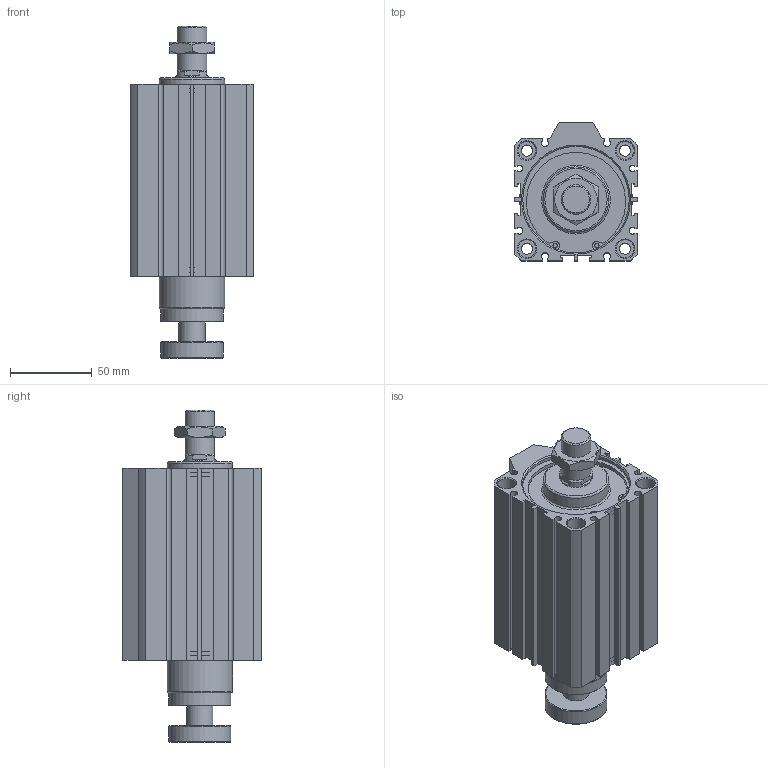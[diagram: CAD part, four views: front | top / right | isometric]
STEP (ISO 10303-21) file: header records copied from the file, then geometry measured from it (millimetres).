
FILE_DESCRIPTION((''),'2;1');
FILE_NAME('I:\3D電子目錄\氣缸\JDAR\JDAR-B\JDAR63-B\JDAR63x85-B.stp','2007-05-05T08:31:20',('662F206'),(''),'Autodesk Inventor 11','Autodesk Inventor 11','');
FILE_SCHEMA(('AUTOMOTIVE_DESIGN { 1 0 10303 214 1 1 1 1 }'));
Length unit declared in the file: millimetre
Products named in the file (3): JDAR63-B; R 形環 65
Assembly tree (3 placements, depth 2):
  JDAR63-B
    JDAR63-B
    R 形環 65  x2
Bounding box: 75 x 84.5 x 202.8 mm (x, y, z)
Volume: 671458 mm3; surface area: 93411.2 mm2
Topology: 3 solids, 3 shells, 201 faces, 487 edges, 317 vertices
Faces by surface type: plane 117, cylinder 56, cone 24, bspline 2, torus 2
Full cylindrical faces by diameter (mm): 2.7 x4, 3 x2, 6.8 x4, 11 x8, 16 x1, 18 x2, 20 x1, 38 x2, 40 x2, 65 x4, 68 x2
Entity records: 5349 total; most frequent: CARTESIAN_POINT 1011, DIRECTION 894, ORIENTED_EDGE 794, EDGE_CURVE 397, AXIS2_PLACEMENT_3D 324, VERTEX_POINT 291, EDGE_LOOP 280, VECTOR 246
